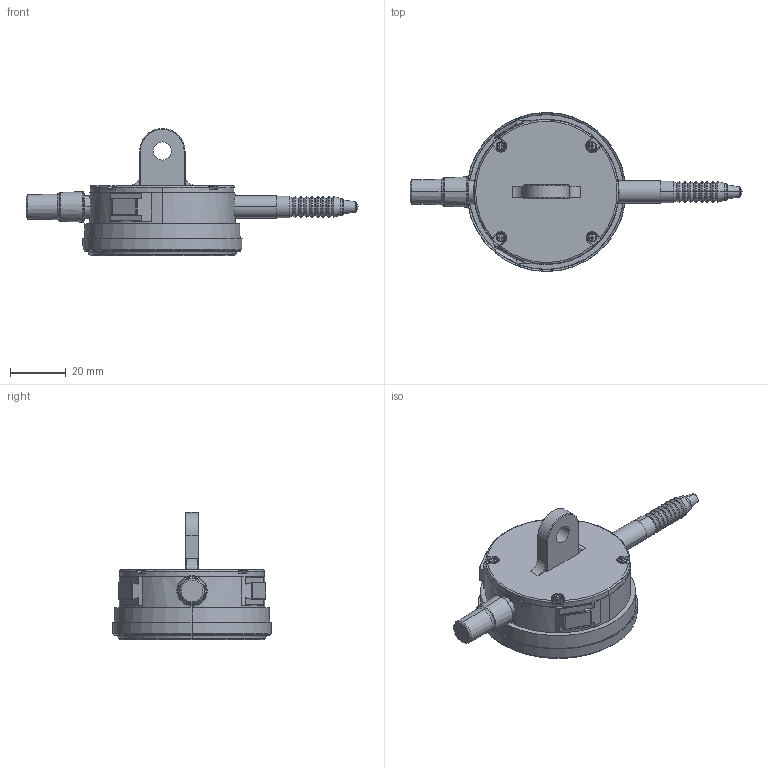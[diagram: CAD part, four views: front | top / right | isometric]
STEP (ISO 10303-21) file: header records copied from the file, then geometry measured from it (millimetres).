
FILE_DESCRIPTION(('Creo Elements/Direct Modeling STEP Export'),'2;1');
FILE_NAME('2044S-60.stp','2020-03-23T10:17:41',(''),(''),'Creo Elements/Direct Modeling STEP processor for AP214 (Solid Model)','Creo Elements/Direct Modeling 18.1I 13-Aug-2016 (C) Parametric Technology GmbH','');
FILE_SCHEMA(('AUTOMOTIVE_DESIGN { 1 0 10303 214 1 1 1 1 }'));
Length unit declared in the file: millimetre
Products named in the file (2): 2044S-60
Assembly tree (1 placements, depth 2):
  2044S-60
    2044S-60
Bounding box: 118.8 x 56.99 x 45.53 mm (x, y, z)
Volume: 61507.4 mm3; surface area: 12087.3 mm2
Topology: 1 solids, 1 shells, 366 faces, 867 edges, 520 vertices
Faces by surface type: plane 126, cylinder 72, cone 70, torus 64, bspline 32, sphere 2
Entity records: 15207 total; most frequent: CARTESIAN_POINT 7309, ORIENTED_EDGE 1730, DIRECTION 1540, EDGE_CURVE 865, AXIS2_PLACEMENT_3D 563, VERTEX_POINT 520, VECTOR 414, LINE 414
